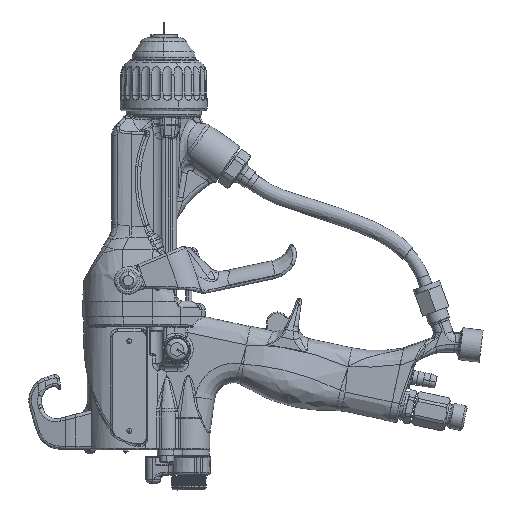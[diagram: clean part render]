
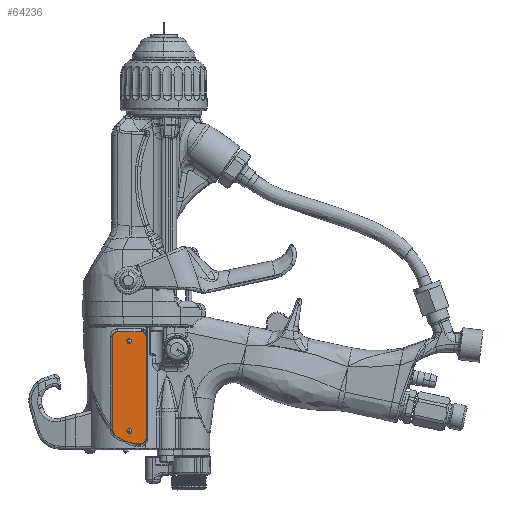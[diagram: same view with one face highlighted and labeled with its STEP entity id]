
A CAD part, left-side view. The second image highlights one B-rep face of the part: STEP entity #64236.
In plain terms, the highlighted planar face has unit normal (-1, 0.003, 0).
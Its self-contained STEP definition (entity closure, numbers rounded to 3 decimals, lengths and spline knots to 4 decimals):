
#56015=CARTESIAN_POINT('',(-0.7542,0.4558,-5.2));
#56016=DIRECTION('',(-1.,0.003,0.));
#56017=DIRECTION('',(-0.003,-1.,0.));
#56018=AXIS2_PLACEMENT_3D('',#56015,#56016,#56017);
#56020=DIRECTION('',(0.,0.,1.));
#56021=VECTOR('',#56020,2.062);
#56022=CARTESIAN_POINT('',(-0.7544,0.3573,-7.262));
#56023=LINE('',#56022,#56021);
#56024=CARTESIAN_POINT('',(-0.7542,0.4558,-7.262));
#56025=DIRECTION('',(-1.,0.003,0.));
#56026=DIRECTION('',(0.,0.,-1.));
#56027=AXIS2_PLACEMENT_3D('',#56024,#56025,#56026);
#56029=DIRECTION('',(-0.003,-1.,0.));
#56030=VECTOR('',#56029,0.087);
#56031=CARTESIAN_POINT('',(-0.7539,0.5428,
-7.3605));
#56032=LINE('',#56031,#56030);
#56033=CARTESIAN_POINT('',(-0.7539,0.5428,-6.722));
#56034=DIRECTION('',(-1.,0.003,0.));
#56035=DIRECTION('',(0.002,0.713,-0.701));
#56036=AXIS2_PLACEMENT_3D('',#56033,#56034,#56035);
#56038=CARTESIAN_POINT('',(-0.7529,0.9208,
-7.0935));
#56039=DIRECTION('',(-1.,0.003,0.));
#56040=DIRECTION('',(0.003,1.,0.));
#56041=AXIS2_PLACEMENT_3D('',#56038,#56039,#56040);
#56043=DIRECTION('',(0.,0.,-1.));
#56044=VECTOR('',#56043,1.8935);
#56045=CARTESIAN_POINT('',(-0.7526,1.0292,-5.2));
#56046=LINE('',#56045,#56044);
#56047=CARTESIAN_POINT('',(-0.7528,0.9308,-5.2));
#56048=DIRECTION('',(-1.,0.003,0.));
#56049=DIRECTION('',(0.,0.,1.));
#56050=AXIS2_PLACEMENT_3D('',#56047,#56048,#56049);
#56052=DIRECTION('',(0.003,1.,0.));
#56053=VECTOR('',#56052,0.475);
#56054=CARTESIAN_POINT('',(-0.7542,0.4558,
-5.1015));
#56055=LINE('',#56054,#56053);
#60687=CARTESIAN_POINT('',(-0.7544,0.3573,-5.2));
#60688=CARTESIAN_POINT('',(-0.7542,0.4558,
-5.1015));
#60689=VERTEX_POINT('',#60687);
#60690=VERTEX_POINT('',#60688);
#60691=CARTESIAN_POINT('',(-0.7528,0.9308,
-5.1015));
#60692=VERTEX_POINT('',#60691);
#60693=CARTESIAN_POINT('',(-0.7526,1.0292,-5.2));
#60694=VERTEX_POINT('',#60693);
#60695=CARTESIAN_POINT('',(-0.7526,1.0292,
-7.0935));
#60696=VERTEX_POINT('',#60695);
#60697=CARTESIAN_POINT('',(-0.7527,0.9981,
-7.1695));
#60698=VERTEX_POINT('',#60697);
#60699=CARTESIAN_POINT('',(-0.7539,0.5428,
-7.3605));
#60700=VERTEX_POINT('',#60699);
#60701=CARTESIAN_POINT('',(-0.7542,0.4558,
-7.3605));
#60702=VERTEX_POINT('',#60701);
#60703=CARTESIAN_POINT('',(-0.7544,0.3573,-7.262));
#60704=VERTEX_POINT('',#60703);
#64211=CARTESIAN_POINT('',(-0.7551,0.1308,-4.53));
#64212=DIRECTION('',(1.,-0.003,0.));
#64213=DIRECTION('',(0.,0.,-1.));
#64214=AXIS2_PLACEMENT_3D('',#64211,#64212,#64213);
#64215=PLANE('',#64214);
#64217=ORIENTED_EDGE('',*,*,#64216,.F.);
#64219=ORIENTED_EDGE('',*,*,#64218,.F.);
#64221=ORIENTED_EDGE('',*,*,#64220,.F.);
#64223=ORIENTED_EDGE('',*,*,#64222,.F.);
#64225=ORIENTED_EDGE('',*,*,#64224,.F.);
#64227=ORIENTED_EDGE('',*,*,#64226,.F.);
#64229=ORIENTED_EDGE('',*,*,#64228,.F.);
#64231=ORIENTED_EDGE('',*,*,#64230,.F.);
#64233=ORIENTED_EDGE('',*,*,#64232,.F.);
#64234=EDGE_LOOP('',(#64217,#64219,#64221,#64223,#64225,#64227,#64229,#64231,
#64233));
#64235=FACE_OUTER_BOUND('',#64234,.F.);
#64236=ADVANCED_FACE('',(#64235),#64215,.F.);
#56019=CIRCLE('',#56018,0.0985);
#56028=CIRCLE('',#56027,0.0985);
#56037=CIRCLE('',#56036,0.6385);
#56042=CIRCLE('',#56041,0.1085);
#56051=CIRCLE('',#56050,0.0985);
#64216=EDGE_CURVE('',#60689,#60690,#56019,.T.);
#64218=EDGE_CURVE('',#60704,#60689,#56023,.T.);
#64220=EDGE_CURVE('',#60702,#60704,#56028,.T.);
#64222=EDGE_CURVE('',#60700,#60702,#56032,.T.);
#64224=EDGE_CURVE('',#60698,#60700,#56037,.T.);
#64226=EDGE_CURVE('',#60696,#60698,#56042,.T.);
#64228=EDGE_CURVE('',#60694,#60696,#56046,.T.);
#64230=EDGE_CURVE('',#60692,#60694,#56051,.T.);
#64232=EDGE_CURVE('',#60690,#60692,#56055,.T.);
